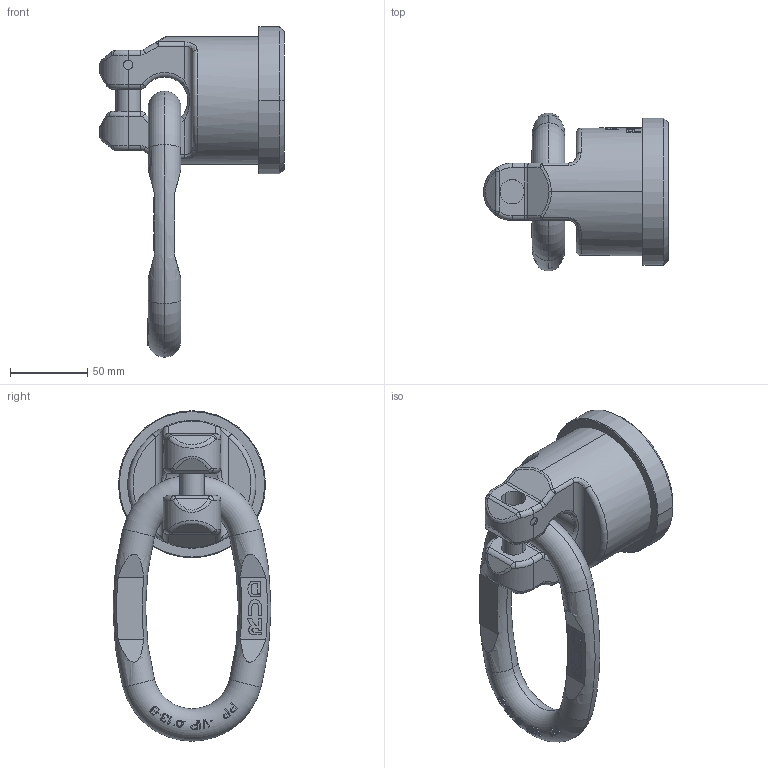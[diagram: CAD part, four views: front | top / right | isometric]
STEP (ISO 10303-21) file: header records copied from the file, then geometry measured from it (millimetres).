
FILE_DESCRIPTION((''),'2;1');
FILE_NAME('001-M31395-P-40_ASM','2018-04-26T',('Anja.Joas'),(''),'PRO/ENGINEER BY PARAMETRIC TECHNOLOGY CORPORATION, 2011490','PRO/ENGINEER BY PARAMETRIC TECHNOLOGY CORPORATION, 2011490','');
FILE_SCHEMA(('CONFIG_CONTROL_DESIGN'));
Length unit declared in the file: millimetre
Products named in the file (4): 001-M31395-P-20; 001-M31395-P-50; 001-M31290-004; 001-M31395-P-40_ASM
Assembly tree (3 placements, depth 2):
  001-M31395-P-40_ASM
    001-M31395-P-20
    001-M31395-P-50
    001-M31290-004
Bounding box: 119.5 x 102 x 213.5 mm (x, y, z)
Volume: 588549.7 mm3; surface area: 79790.1 mm2
Topology: 3 solids, 3 shells, 602 faces, 1595 edges, 1036 vertices
Faces by surface type: plane 467, cylinder 66, torus 32, bspline 26, cone 6, sphere 4, extrusion 1
Entity records: 20944 total; most frequent: CARTESIAN_POINT 6733, ORIENTED_EDGE 3190, DIRECTION 2540, EDGE_CURVE 1595, VERTEX_POINT 1036, VECTOR 848, LINE 847, AXIS2_PLACEMENT_3D 846
